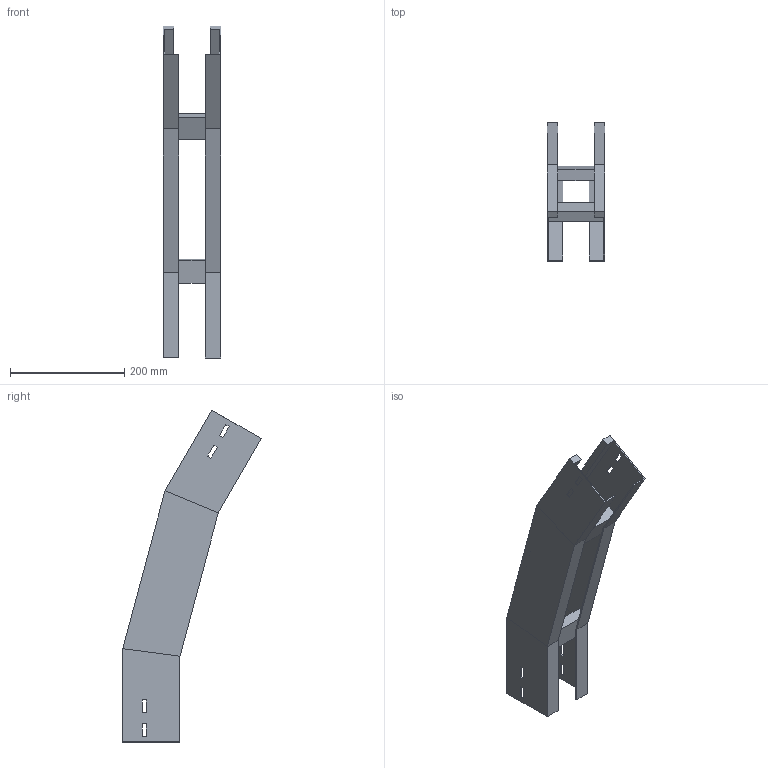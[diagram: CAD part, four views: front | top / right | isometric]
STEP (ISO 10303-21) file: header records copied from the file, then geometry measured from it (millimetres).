
FILE_DESCRIPTION (( 'STEP AP214' ), '1' );
FILE_NAME ('35B5D100.step', '2025-02-21T14:45:31', ( '' ), ( '' ), 'SwSTEP 2.0', 'SolidWorks 2023', '' );
FILE_SCHEMA (( 'AUTOMOTIVE_DESIGN' ));
Length unit declared in the file: millimetre
Products named in the file (3): TRAVERSINO_100; LONGH.DISCESA_30°_H100_R500; 35B5D100
Assembly tree (5 placements, depth 2):
  35B5D100
    LONGH.DISCESA_30°_H100_R500  x2
    TRAVERSINO_100  x3
Bounding box: 100 x 242.03 x 580.08 mm (x, y, z)
Volume: 754565.4 mm3; surface area: 373651.6 mm2
Topology: 5 solids, 5 shells, 102 faces, 244 edges, 152 vertices
Faces by surface type: plane 102
Entity records: 1480 total; most frequent: CARTESIAN_POINT 244, ORIENTED_EDGE 232, DIRECTION 228, EDGE_CURVE 116, VECTOR 116, LINE 116, VERTEX_POINT 72, EDGE_LOOP 56
